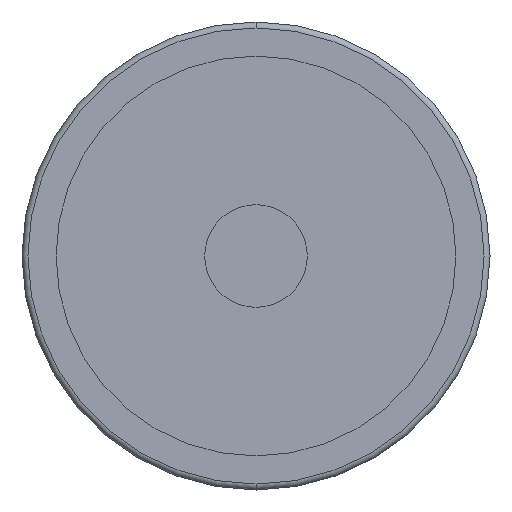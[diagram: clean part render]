
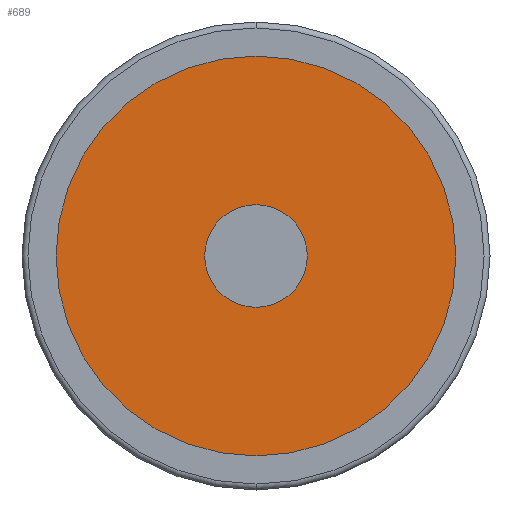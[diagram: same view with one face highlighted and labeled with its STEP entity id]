
A CAD part, front view. The second image highlights one B-rep face of the part: STEP entity #689.
In plain terms, the highlighted planar face has unit normal (0, -1, 0).
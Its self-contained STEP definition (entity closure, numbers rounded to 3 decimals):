
#323 = DIRECTION ( 'NONE',  ( 1., 0., 0. ) ) ;
#411 = FACE_OUTER_BOUND ( 'NONE', #1275, .T. ) ;
#416 = CIRCLE ( 'NONE', #463, 8. ) ;
#430 = AXIS2_PLACEMENT_3D ( 'NONE', #583, #1355, #1561 ) ;
#463 = AXIS2_PLACEMENT_3D ( 'NONE', #2328, #1904, #2309 ) ;
#513 = VERTEX_POINT ( 'NONE', #723 ) ;
#583 = CARTESIAN_POINT ( 'NONE',  ( -34.25, 4.5, 0. ) ) ;
#610 = CARTESIAN_POINT ( 'NONE',  ( 34.25, 4.5, 0. ) ) ;
#612 = CARTESIAN_POINT ( 'NONE',  ( 0., 4.5, 0. ) ) ;
#635 = EDGE_CURVE ( 'NONE', #977, #1843, #416, .T. ) ;
#663 = ORIENTED_EDGE ( 'NONE', *, *, #1447, .T. ) ;
#689 = ADVANCED_FACE ( 'NONE', ( #411, #1158 ), #1183, .T. ) ;
#723 = CARTESIAN_POINT ( 'NONE',  ( -34.25, 4.5, 0. ) ) ;
#739 = CARTESIAN_POINT ( 'NONE',  ( 0., 4.5, 0. ) ) ;
#773 = DIRECTION ( 'NONE',  ( 0., -1., 0. ) ) ;
#821 = DIRECTION ( 'NONE',  ( 1., 0., 0. ) ) ;
#977 = VERTEX_POINT ( 'NONE', #1050 ) ;
#1050 = CARTESIAN_POINT ( 'NONE',  ( -8., 4.5, 0. ) ) ;
#1115 = CIRCLE ( 'NONE', #1280, 34.25 ) ;
#1158 = FACE_BOUND ( 'NONE', #1365, .T. ) ;
#1183 = PLANE ( 'NONE',  #430 ) ;
#1275 = EDGE_LOOP ( 'NONE', ( #1351, #663 ) ) ;
#1280 = AXIS2_PLACEMENT_3D ( 'NONE', #612, #1381, #821 ) ;
#1351 = ORIENTED_EDGE ( 'NONE', *, *, #2020, .T. ) ;
#1355 = DIRECTION ( 'NONE',  ( 0., -1., 0. ) ) ;
#1365 = EDGE_LOOP ( 'NONE', ( #2416, #1700 ) ) ;
#1381 = DIRECTION ( 'NONE',  ( 0., -1., 0. ) ) ;
#1447 = EDGE_CURVE ( 'NONE', #2453, #513, #1587, .T. ) ;
#1465 = CARTESIAN_POINT ( 'NONE',  ( 0., 4.5, 0. ) ) ;
#1556 = CIRCLE ( 'NONE', #2044, 8. ) ;
#1561 = DIRECTION ( 'NONE',  ( 1., 0., 0. ) ) ;
#1587 = CIRCLE ( 'NONE', #2152, 34.25 ) ;
#1700 = ORIENTED_EDGE ( 'NONE', *, *, #635, .F. ) ;
#1843 = VERTEX_POINT ( 'NONE', #2239 ) ;
#1904 = DIRECTION ( 'NONE',  ( 0., -1., 0. ) ) ;
#2020 = EDGE_CURVE ( 'NONE', #513, #2453, #1115, .T. ) ;
#2021 = DIRECTION ( 'NONE',  ( 0., -1., 0. ) ) ;
#2044 = AXIS2_PLACEMENT_3D ( 'NONE', #739, #773, #2454 ) ;
#2152 = AXIS2_PLACEMENT_3D ( 'NONE', #1465, #2021, #323 ) ;
#2239 = CARTESIAN_POINT ( 'NONE',  ( 8., 4.5, 0. ) ) ;
#2309 = DIRECTION ( 'NONE',  ( 1., 0., 0. ) ) ;
#2328 = CARTESIAN_POINT ( 'NONE',  ( 0., 4.5, 0. ) ) ;
#2378 = EDGE_CURVE ( 'NONE', #1843, #977, #1556, .T. ) ;
#2416 = ORIENTED_EDGE ( 'NONE', *, *, #2378, .F. ) ;
#2453 = VERTEX_POINT ( 'NONE', #610 ) ;
#2454 = DIRECTION ( 'NONE',  ( 1., 0., 0. ) ) ;
